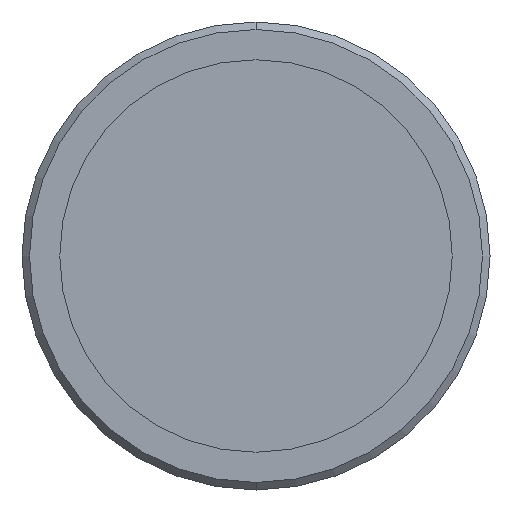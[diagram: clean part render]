
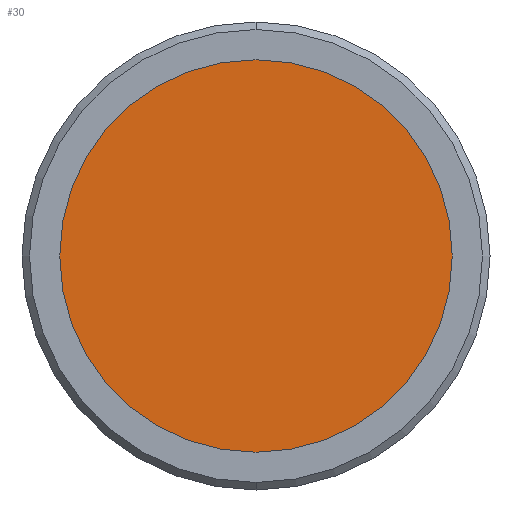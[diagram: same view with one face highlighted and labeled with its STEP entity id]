
A CAD part, front view. The second image highlights one B-rep face of the part: STEP entity #30.
In plain terms, the highlighted planar face has unit normal (0, -1, 0).
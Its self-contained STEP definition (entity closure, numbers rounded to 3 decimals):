
#30 = ADVANCED_FACE ( 'NONE', ( #599 ), #813, .T. ) ;
#90 = DIRECTION ( 'NONE',  ( 0., 0., 1. ) ) ;
#153 = CIRCLE ( 'NONE', #1041, 13. ) ;
#188 = EDGE_CURVE ( 'NONE', #340, #363, #153, .T. ) ;
#196 = ORIENTED_EDGE ( 'NONE', *, *, #188, .F. ) ;
#197 = ORIENTED_EDGE ( 'NONE', *, *, #491, .F. ) ;
#212 = DIRECTION ( 'NONE',  ( 0., 1., 0. ) ) ;
#225 = CARTESIAN_POINT ( 'NONE',  ( 0., -9., 0. ) ) ;
#254 = CIRCLE ( 'NONE', #922, 13. ) ;
#340 = VERTEX_POINT ( 'NONE', #998 ) ;
#363 = VERTEX_POINT ( 'NONE', #1039 ) ;
#491 = EDGE_CURVE ( 'NONE', #363, #340, #254, .T. ) ;
#492 = DIRECTION ( 'NONE',  ( 0., 0., 1. ) ) ;
#499 = CARTESIAN_POINT ( 'NONE',  ( 0., -9., 0. ) ) ;
#599 = FACE_OUTER_BOUND ( 'NONE', #627, .T. ) ;
#627 = EDGE_LOOP ( 'NONE', ( #196, #197 ) ) ;
#654 = CARTESIAN_POINT ( 'NONE',  ( 0., -9., 0. ) ) ;
#786 = DIRECTION ( 'NONE',  ( 0., 1., 0. ) ) ;
#813 = PLANE ( 'NONE',  #957 ) ;
#819 = DIRECTION ( 'NONE',  ( 0., -1., 0. ) ) ;
#863 = DIRECTION ( 'NONE',  ( 0., 0., -1. ) ) ;
#922 = AXIS2_PLACEMENT_3D ( 'NONE', #499, #786, #492 ) ;
#957 = AXIS2_PLACEMENT_3D ( 'NONE', #654, #819, #863 ) ;
#998 = CARTESIAN_POINT ( 'NONE',  ( 0., -9., 13. ) ) ;
#1039 = CARTESIAN_POINT ( 'NONE',  ( 0., -9., -13. ) ) ;
#1041 = AXIS2_PLACEMENT_3D ( 'NONE', #225, #212, #90 ) ;
